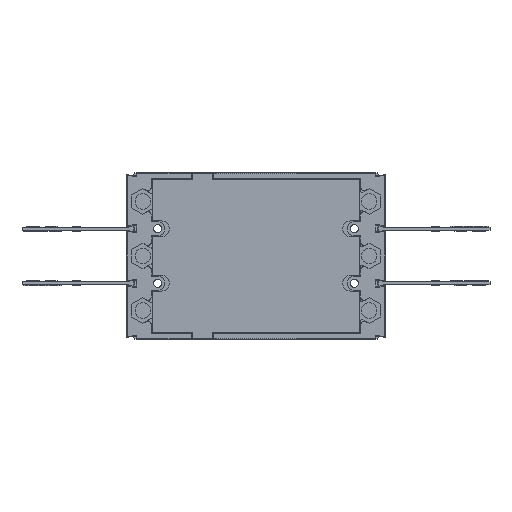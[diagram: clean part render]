
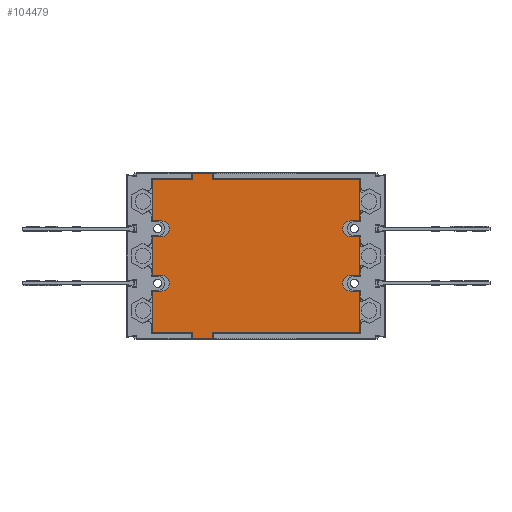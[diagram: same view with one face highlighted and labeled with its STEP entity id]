
A CAD part, front view. The second image highlights one B-rep face of the part: STEP entity #104479.
In plain terms, the highlighted planar face has unit normal (0, -1, 0).
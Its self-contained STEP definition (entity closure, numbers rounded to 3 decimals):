
#5465=DIRECTION('',(1.,0.,0.));
#5466=VECTOR('',#5465,13.4);
#5467=CARTESIAN_POINT('',(-18.25,-45.7,53.));
#5468=LINE('',#5467,#5466);
#5469=DIRECTION('',(0.,0.,-1.));
#5470=VECTOR('',#5469,4.2);
#5471=CARTESIAN_POINT('',(-4.85,-45.7,53.));
#5472=LINE('',#5471,#5470);
#5473=DIRECTION('',(1.,0.,0.));
#5474=VECTOR('',#5473,94.1);
#5475=CARTESIAN_POINT('',(-4.85,-45.7,48.8));
#5476=LINE('',#5475,#5474);
#5477=DIRECTION('',(0.,0.,-1.));
#5478=VECTOR('',#5477,26.3);
#5479=CARTESIAN_POINT('',(89.25,-45.7,48.8));
#5480=LINE('',#5479,#5478);
#5481=DIRECTION('',(-1.,0.,0.));
#5482=VECTOR('',#5481,5.9);
#5483=CARTESIAN_POINT('',(89.25,-45.7,22.5));
#5484=LINE('',#5483,#5482);
#5485=CARTESIAN_POINT('',(83.35,-45.7,17.5));
#5486=DIRECTION('',(0.,-1.,0.));
#5487=DIRECTION('',(0.,0.,1.));
#5488=AXIS2_PLACEMENT_3D('',#5485,#5486,#5487);
#5490=DIRECTION('',(1.,0.,0.));
#5491=VECTOR('',#5490,5.9);
#5492=CARTESIAN_POINT('',(83.35,-45.7,12.5));
#5493=LINE('',#5492,#5491);
#5494=DIRECTION('',(0.,0.,-1.));
#5495=VECTOR('',#5494,25.);
#5496=CARTESIAN_POINT('',(89.25,-45.7,12.5));
#5497=LINE('',#5496,#5495);
#5498=DIRECTION('',(-1.,0.,0.));
#5499=VECTOR('',#5498,5.9);
#5500=CARTESIAN_POINT('',(89.25,-45.7,-12.5));
#5501=LINE('',#5500,#5499);
#5502=CARTESIAN_POINT('',(83.35,-45.7,-17.5));
#5503=DIRECTION('',(0.,-1.,0.));
#5504=DIRECTION('',(0.,0.,1.));
#5505=AXIS2_PLACEMENT_3D('',#5502,#5503,#5504);
#5507=DIRECTION('',(1.,0.,0.));
#5508=VECTOR('',#5507,5.9);
#5509=CARTESIAN_POINT('',(83.35,-45.7,-22.5));
#5510=LINE('',#5509,#5508);
#5511=DIRECTION('',(0.,0.,-1.));
#5512=VECTOR('',#5511,26.3);
#5513=CARTESIAN_POINT('',(89.25,-45.7,-22.5));
#5514=LINE('',#5513,#5512);
#5515=DIRECTION('',(-1.,0.,0.));
#5516=VECTOR('',#5515,94.1);
#5517=CARTESIAN_POINT('',(89.25,-45.7,-48.8));
#5518=LINE('',#5517,#5516);
#5519=DIRECTION('',(0.,0.,-1.));
#5520=VECTOR('',#5519,4.2);
#5521=CARTESIAN_POINT('',(-4.85,-45.7,-48.8));
#5522=LINE('',#5521,#5520);
#5523=DIRECTION('',(-1.,0.,0.));
#5524=VECTOR('',#5523,13.4);
#5525=CARTESIAN_POINT('',(-4.85,-45.7,-53.));
#5526=LINE('',#5525,#5524);
#5527=DIRECTION('',(0.,0.,1.));
#5528=VECTOR('',#5527,4.2);
#5529=CARTESIAN_POINT('',(-18.25,-45.7,-53.));
#5530=LINE('',#5529,#5528);
#5531=DIRECTION('',(-1.,0.,0.));
#5532=VECTOR('',#5531,25.5);
#5533=CARTESIAN_POINT('',(-18.25,-45.7,-48.8));
#5534=LINE('',#5533,#5532);
#5535=DIRECTION('',(0.,0.,1.));
#5536=VECTOR('',#5535,26.3);
#5537=CARTESIAN_POINT('',(-43.75,-45.7,-48.8));
#5538=LINE('',#5537,#5536);
#5539=DIRECTION('',(1.,0.,0.));
#5540=VECTOR('',#5539,5.9);
#5541=CARTESIAN_POINT('',(-43.75,-45.7,-22.5));
#5542=LINE('',#5541,#5540);
#5543=CARTESIAN_POINT('',(-37.85,-45.7,-17.5));
#5544=DIRECTION('',(0.,-1.,0.));
#5545=DIRECTION('',(0.,0.,-1.));
#5546=AXIS2_PLACEMENT_3D('',#5543,#5544,#5545);
#5548=DIRECTION('',(-1.,0.,0.));
#5549=VECTOR('',#5548,5.9);
#5550=CARTESIAN_POINT('',(-37.85,-45.7,-12.5));
#5551=LINE('',#5550,#5549);
#5552=DIRECTION('',(0.,0.,1.));
#5553=VECTOR('',#5552,25.);
#5554=CARTESIAN_POINT('',(-43.75,-45.7,-12.5));
#5555=LINE('',#5554,#5553);
#5556=DIRECTION('',(1.,0.,0.));
#5557=VECTOR('',#5556,5.9);
#5558=CARTESIAN_POINT('',(-43.75,-45.7,12.5));
#5559=LINE('',#5558,#5557);
#5560=CARTESIAN_POINT('',(-37.85,-45.7,17.5));
#5561=DIRECTION('',(0.,-1.,0.));
#5562=DIRECTION('',(0.,0.,-1.));
#5563=AXIS2_PLACEMENT_3D('',#5560,#5561,#5562);
#5565=DIRECTION('',(-1.,0.,0.));
#5566=VECTOR('',#5565,5.9);
#5567=CARTESIAN_POINT('',(-37.85,-45.7,22.5));
#5568=LINE('',#5567,#5566);
#5569=DIRECTION('',(0.,0.,1.));
#5570=VECTOR('',#5569,26.3);
#5571=CARTESIAN_POINT('',(-43.75,-45.7,22.5));
#5572=LINE('',#5571,#5570);
#5573=DIRECTION('',(1.,0.,0.));
#5574=VECTOR('',#5573,25.5);
#5575=CARTESIAN_POINT('',(-43.75,-45.7,48.8));
#5576=LINE('',#5575,#5574);
#5577=DIRECTION('',(0.,0.,1.));
#5578=VECTOR('',#5577,4.2);
#5579=CARTESIAN_POINT('',(-18.25,-45.7,48.8));
#5580=LINE('',#5579,#5578);
#92754=CARTESIAN_POINT('',(-18.25,-45.7,53.));
#92755=CARTESIAN_POINT('',(-4.85,-45.7,53.));
#92756=VERTEX_POINT('',#92754);
#92757=VERTEX_POINT('',#92755);
#92758=CARTESIAN_POINT('',(-4.85,-45.7,48.8));
#92759=VERTEX_POINT('',#92758);
#92760=CARTESIAN_POINT('',(89.25,-45.7,48.8));
#92761=VERTEX_POINT('',#92760);
#92762=CARTESIAN_POINT('',(89.25,-45.7,22.5));
#92763=VERTEX_POINT('',#92762);
#92764=CARTESIAN_POINT('',(83.35,-45.7,22.5));
#92765=VERTEX_POINT('',#92764);
#92766=CARTESIAN_POINT('',(83.35,-45.7,12.5));
#92767=VERTEX_POINT('',#92766);
#92768=CARTESIAN_POINT('',(89.25,-45.7,12.5));
#92769=VERTEX_POINT('',#92768);
#92770=CARTESIAN_POINT('',(89.25,-45.7,-12.5));
#92771=VERTEX_POINT('',#92770);
#92772=CARTESIAN_POINT('',(83.35,-45.7,-12.5));
#92773=VERTEX_POINT('',#92772);
#92774=CARTESIAN_POINT('',(83.35,-45.7,-22.5));
#92775=VERTEX_POINT('',#92774);
#92776=CARTESIAN_POINT('',(89.25,-45.7,-22.5));
#92777=VERTEX_POINT('',#92776);
#92778=CARTESIAN_POINT('',(89.25,-45.7,-48.8));
#92779=VERTEX_POINT('',#92778);
#92780=CARTESIAN_POINT('',(-4.85,-45.7,-48.8));
#92781=VERTEX_POINT('',#92780);
#92782=CARTESIAN_POINT('',(-4.85,-45.7,-53.));
#92783=VERTEX_POINT('',#92782);
#92784=CARTESIAN_POINT('',(-18.25,-45.7,-53.));
#92785=VERTEX_POINT('',#92784);
#92786=CARTESIAN_POINT('',(-18.25,-45.7,-48.8));
#92787=VERTEX_POINT('',#92786);
#92788=CARTESIAN_POINT('',(-43.75,-45.7,-48.8));
#92789=VERTEX_POINT('',#92788);
#92790=CARTESIAN_POINT('',(-43.75,-45.7,-22.5));
#92791=VERTEX_POINT('',#92790);
#92792=CARTESIAN_POINT('',(-37.85,-45.7,-22.5));
#92793=VERTEX_POINT('',#92792);
#92794=CARTESIAN_POINT('',(-37.85,-45.7,-12.5));
#92795=VERTEX_POINT('',#92794);
#92796=CARTESIAN_POINT('',(-43.75,-45.7,-12.5));
#92797=VERTEX_POINT('',#92796);
#92798=CARTESIAN_POINT('',(-43.75,-45.7,12.5));
#92799=VERTEX_POINT('',#92798);
#92800=CARTESIAN_POINT('',(-37.85,-45.7,12.5));
#92801=VERTEX_POINT('',#92800);
#92802=CARTESIAN_POINT('',(-37.85,-45.7,22.5));
#92803=VERTEX_POINT('',#92802);
#92804=CARTESIAN_POINT('',(-43.75,-45.7,22.5));
#92805=VERTEX_POINT('',#92804);
#92806=CARTESIAN_POINT('',(-43.75,-45.7,48.8));
#92807=VERTEX_POINT('',#92806);
#92808=CARTESIAN_POINT('',(-18.25,-45.7,48.8));
#92809=VERTEX_POINT('',#92808);
#104420=CARTESIAN_POINT('',(22.75,-45.7,0.));
#104421=DIRECTION('',(0.,1.,0.));
#104422=DIRECTION('',(0.,0.,1.));
#104423=AXIS2_PLACEMENT_3D('',#104420,#104421,#104422);
#104424=PLANE('',#104423);
#104426=ORIENTED_EDGE('',*,*,#104425,.T.);
#104428=ORIENTED_EDGE('',*,*,#104427,.T.);
#104430=ORIENTED_EDGE('',*,*,#104429,.T.);
#104432=ORIENTED_EDGE('',*,*,#104431,.T.);
#104434=ORIENTED_EDGE('',*,*,#104433,.T.);
#104436=ORIENTED_EDGE('',*,*,#104435,.T.);
#104438=ORIENTED_EDGE('',*,*,#104437,.T.);
#104440=ORIENTED_EDGE('',*,*,#104439,.T.);
#104442=ORIENTED_EDGE('',*,*,#104441,.T.);
#104444=ORIENTED_EDGE('',*,*,#104443,.T.);
#104446=ORIENTED_EDGE('',*,*,#104445,.T.);
#104448=ORIENTED_EDGE('',*,*,#104447,.T.);
#104450=ORIENTED_EDGE('',*,*,#104449,.T.);
#104452=ORIENTED_EDGE('',*,*,#104451,.T.);
#104454=ORIENTED_EDGE('',*,*,#104453,.T.);
#104456=ORIENTED_EDGE('',*,*,#104455,.T.);
#104457=ORIENTED_EDGE('',*,*,#104412,.T.);
#104458=ORIENTED_EDGE('',*,*,#104377,.T.);
#104460=ORIENTED_EDGE('',*,*,#104459,.T.);
#104462=ORIENTED_EDGE('',*,*,#104461,.T.);
#104464=ORIENTED_EDGE('',*,*,#104463,.T.);
#104465=ORIENTED_EDGE('',*,*,#104323,.T.);
#104467=ORIENTED_EDGE('',*,*,#104466,.T.);
#104469=ORIENTED_EDGE('',*,*,#104468,.T.);
#104471=ORIENTED_EDGE('',*,*,#104470,.T.);
#104472=ORIENTED_EDGE('',*,*,#104269,.T.);
#104474=ORIENTED_EDGE('',*,*,#104473,.T.);
#104476=ORIENTED_EDGE('',*,*,#104475,.T.);
#104477=EDGE_LOOP('',(#104426,#104428,#104430,#104432,#104434,#104436,#104438,
#104440,#104442,#104444,#104446,#104448,#104450,#104452,#104454,#104456,#104457,
#104458,#104460,#104462,#104464,#104465,#104467,#104469,#104471,#104472,#104474,
#104476));
#104478=FACE_OUTER_BOUND('',#104477,.F.);
#104479=ADVANCED_FACE('',(#104478),#104424,.F.);
#5489=CIRCLE('',#5488,5.);
#5506=CIRCLE('',#5505,5.);
#5547=CIRCLE('',#5546,5.);
#5564=CIRCLE('',#5563,5.);
#104269=EDGE_CURVE('',#92805,#92807,#5572,.T.);
#104323=EDGE_CURVE('',#92797,#92799,#5555,.T.);
#104377=EDGE_CURVE('',#92789,#92791,#5538,.T.);
#104412=EDGE_CURVE('',#92787,#92789,#5534,.T.);
#104425=EDGE_CURVE('',#92756,#92757,#5468,.T.);
#104427=EDGE_CURVE('',#92757,#92759,#5472,.T.);
#104429=EDGE_CURVE('',#92759,#92761,#5476,.T.);
#104431=EDGE_CURVE('',#92761,#92763,#5480,.T.);
#104433=EDGE_CURVE('',#92763,#92765,#5484,.T.);
#104435=EDGE_CURVE('',#92765,#92767,#5489,.T.);
#104437=EDGE_CURVE('',#92767,#92769,#5493,.T.);
#104439=EDGE_CURVE('',#92769,#92771,#5497,.T.);
#104441=EDGE_CURVE('',#92771,#92773,#5501,.T.);
#104443=EDGE_CURVE('',#92773,#92775,#5506,.T.);
#104445=EDGE_CURVE('',#92775,#92777,#5510,.T.);
#104447=EDGE_CURVE('',#92777,#92779,#5514,.T.);
#104449=EDGE_CURVE('',#92779,#92781,#5518,.T.);
#104451=EDGE_CURVE('',#92781,#92783,#5522,.T.);
#104453=EDGE_CURVE('',#92783,#92785,#5526,.T.);
#104455=EDGE_CURVE('',#92785,#92787,#5530,.T.);
#104459=EDGE_CURVE('',#92791,#92793,#5542,.T.);
#104461=EDGE_CURVE('',#92793,#92795,#5547,.T.);
#104463=EDGE_CURVE('',#92795,#92797,#5551,.T.);
#104466=EDGE_CURVE('',#92799,#92801,#5559,.T.);
#104468=EDGE_CURVE('',#92801,#92803,#5564,.T.);
#104470=EDGE_CURVE('',#92803,#92805,#5568,.T.);
#104473=EDGE_CURVE('',#92807,#92809,#5576,.T.);
#104475=EDGE_CURVE('',#92809,#92756,#5580,.T.);
